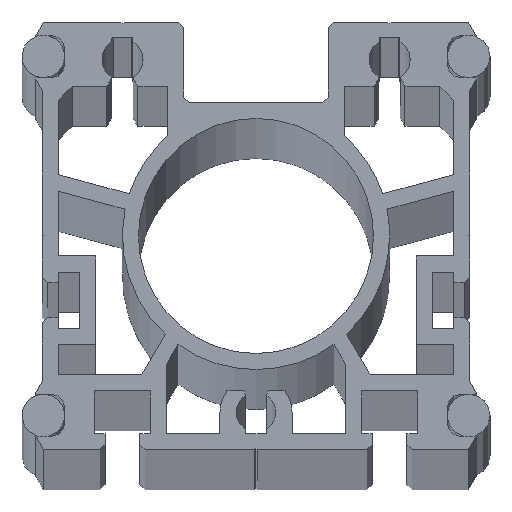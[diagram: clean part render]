
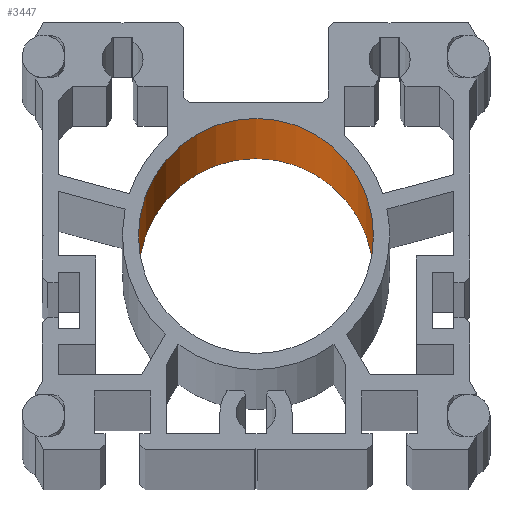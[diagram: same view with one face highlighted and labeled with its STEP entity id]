
A CAD part, top view. The second image highlights one B-rep face of the part: STEP entity #3447.
In plain terms, the highlighted cylindrical face has radius 22 mm (diameter 44 mm), a partial arc.
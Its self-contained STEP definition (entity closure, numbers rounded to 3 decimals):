
#966 = VERTEX_POINT ( 'NONE', #4452 ) ;
#969 = VERTEX_POINT ( 'NONE', #4446 ) ;
#971 = EDGE_CURVE ( 'NONE', #981, #969, #4445, .T. ) ;
#980 = VERTEX_POINT ( 'NONE', #4419 ) ;
#981 = VERTEX_POINT ( 'NONE', #4418 ) ;
#983 = EDGE_CURVE ( 'NONE', #980, #966, #4417, .T. ) ;
#2859 = EDGE_CURVE ( 'NONE', #981, #980, #7584, .T. ) ;
#3281 = ORIENTED_EDGE ( 'NONE', *, *, #971, .T. ) ;
#3282 = ORIENTED_EDGE ( 'NONE', *, *, #3445, .T. ) ;
#3445 = EDGE_CURVE ( 'NONE', #969, #966, #8387, .T. ) ;
#3447 = ADVANCED_FACE ( 'NONE', ( #8382 ), #8381, .F. ) ;
#3448 = EDGE_LOOP ( 'NONE', ( #3449, #3450, #3281, #3282 ) ) ;
#3449 = ORIENTED_EDGE ( 'NONE', *, *, #983, .F. ) ;
#3450 = ORIENTED_EDGE ( 'NONE', *, *, #2859, .F. ) ;
#4414 = DIRECTION ( 'NONE',  ( 0., 0., 1. ) ) ;
#4415 = VECTOR ( 'NONE', #4414, 1000. ) ;
#4416 = CARTESIAN_POINT ( 'NONE',  ( -22., 40., -2149. ) ) ;
#4417 = LINE ( 'NONE', #4416, #4415 ) ;
#4418 = CARTESIAN_POINT ( 'NONE',  ( 22., 40., -2149. ) ) ;
#4419 = CARTESIAN_POINT ( 'NONE',  ( -22., 40., -2149. ) ) ;
#4442 = DIRECTION ( 'NONE',  ( 0., 0., 1. ) ) ;
#4443 = VECTOR ( 'NONE', #4442, 1000. ) ;
#4444 = CARTESIAN_POINT ( 'NONE',  ( 22., 40., -2149. ) ) ;
#4445 = LINE ( 'NONE', #4444, #4443 ) ;
#4446 = CARTESIAN_POINT ( 'NONE',  ( 22., 40., 2149. ) ) ;
#4452 = CARTESIAN_POINT ( 'NONE',  ( -22., 40., 2149. ) ) ;
#7580 = DIRECTION ( 'NONE',  ( 1., 0., 0. ) ) ;
#7581 = DIRECTION ( 'NONE',  ( 0., 0., 1. ) ) ;
#7582 = CARTESIAN_POINT ( 'NONE',  ( 0., 40., -2149. ) ) ;
#7583 = AXIS2_PLACEMENT_3D ( 'NONE', #7582, #7581, #7580 ) ;
#7584 = CIRCLE ( 'NONE', #7583, 22. ) ;
#8381 = CYLINDRICAL_SURFACE ( 'NONE', #8400, 22. ) ;
#8382 = FACE_OUTER_BOUND ( 'NONE', #3448, .T. ) ;
#8383 = DIRECTION ( 'NONE',  ( 1., 0., 0. ) ) ;
#8384 = DIRECTION ( 'NONE',  ( 0., 0., 1. ) ) ;
#8385 = CARTESIAN_POINT ( 'NONE',  ( 0., 40., 2149. ) ) ;
#8386 = AXIS2_PLACEMENT_3D ( 'NONE', #8385, #8384, #8383 ) ;
#8387 = CIRCLE ( 'NONE', #8386, 22. ) ;
#8388 = CARTESIAN_POINT ( 'NONE',  ( 0., 40., -2149. ) ) ;
#8398 = DIRECTION ( 'NONE',  ( 1., 0., 0. ) ) ;
#8399 = DIRECTION ( 'NONE',  ( 0., 0., 1. ) ) ;
#8400 = AXIS2_PLACEMENT_3D ( 'NONE', #8388, #8399, #8398 ) ;
